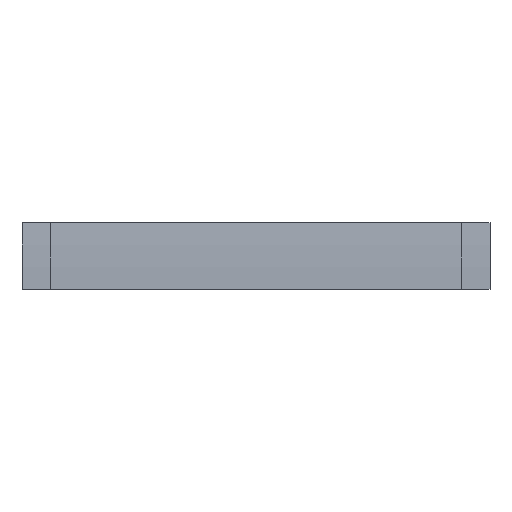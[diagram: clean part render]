
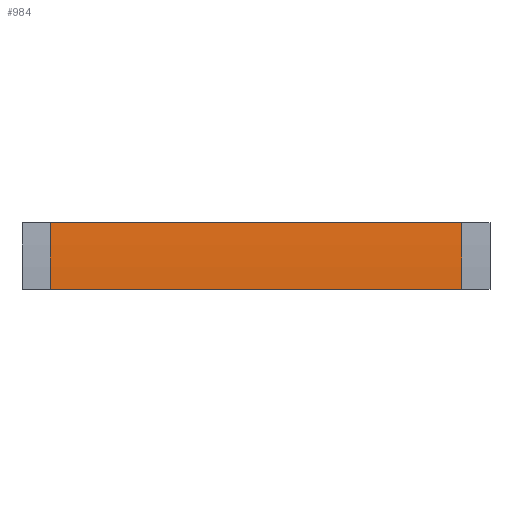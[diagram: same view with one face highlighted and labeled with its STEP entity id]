
A CAD part, front view. The second image highlights one B-rep face of the part: STEP entity #984.
In plain terms, the highlighted cylindrical face has radius 568 mm (diameter 1136 mm), a partial arc.
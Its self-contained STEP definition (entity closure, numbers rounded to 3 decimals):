
#9 = AXIS2_PLACEMENT_3D ( 'NONE', #151, #173, #187 ) ;
#25 = AXIS2_PLACEMENT_3D ( 'NONE', #804, #803, #802 ) ;
#63 = EDGE_CURVE ( 'NONE', #947, #948, #571, .T. ) ;
#105 = EDGE_CURVE ( 'NONE', #948, #871, #502, .T. ) ;
#112 = EDGE_CURVE ( 'NONE', #947, #891, #468, .T. ) ;
#117 = EDGE_CURVE ( 'NONE', #891, #871, #475, .T. ) ;
#145 = CARTESIAN_POINT ( 'NONE',  ( -152., -65.839, 49.504 ) ) ;
#151 = CARTESIAN_POINT ( 'NONE',  ( 152., 500., 0. ) ) ;
#173 = DIRECTION ( 'NONE',  ( 1., 0., 0. ) ) ;
#187 = DIRECTION ( 'NONE',  ( 0., 0., -1. ) ) ;
#206 = DIRECTION ( 'NONE',  ( 1., 0., 0. ) ) ;
#209 = CARTESIAN_POINT ( 'NONE',  ( 0., 500., 0. ) ) ;
#212 = DIRECTION ( 'NONE',  ( 0., 0., -1. ) ) ;
#225 = DIRECTION ( 'NONE',  ( 1., 0., 0. ) ) ;
#232 = CARTESIAN_POINT ( 'NONE',  ( -152., -65.839, 49.504 ) ) ;
#235 = CARTESIAN_POINT ( 'NONE',  ( -152., -68., 0. ) ) ;
#239 = CARTESIAN_POINT ( 'NONE',  ( 152., -65.839, 49.504 ) ) ;
#291 = CARTESIAN_POINT ( 'NONE',  ( 152., -68., 0. ) ) ;
#351 = ORIENTED_EDGE ( 'NONE', *, *, #112, .F. ) ;
#352 = ORIENTED_EDGE ( 'NONE', *, *, #117, .F. ) ;
#355 = ORIENTED_EDGE ( 'NONE', *, *, #105, .T. ) ;
#356 = ORIENTED_EDGE ( 'NONE', *, *, #63, .T. ) ;
#397 = CYLINDRICAL_SURFACE ( 'NONE', #1008, 568. ) ;
#418 = FACE_OUTER_BOUND ( 'NONE', #935, .T. ) ;
#466 = VECTOR ( 'NONE', #225, 1000. ) ;
#468 = LINE ( 'NONE', #145, #466 ) ;
#475 = CIRCLE ( 'NONE', #9, 568. ) ;
#481 = VECTOR ( 'NONE', #723, 1000. ) ;
#502 = LINE ( 'NONE', #827, #481 ) ;
#571 = CIRCLE ( 'NONE', #25, 568. ) ;
#723 = DIRECTION ( 'NONE',  ( 1., 0., 0. ) ) ;
#802 = DIRECTION ( 'NONE',  ( 0., 0., -1. ) ) ;
#803 = DIRECTION ( 'NONE',  ( 1., 0., 0. ) ) ;
#804 = CARTESIAN_POINT ( 'NONE',  ( -152., 500., 0. ) ) ;
#827 = CARTESIAN_POINT ( 'NONE',  ( -152., -68., 0. ) ) ;
#871 = VERTEX_POINT ( 'NONE', #291 ) ;
#891 = VERTEX_POINT ( 'NONE', #239 ) ;
#935 = EDGE_LOOP ( 'NONE', ( #352, #351, #356, #355 ) ) ;
#947 = VERTEX_POINT ( 'NONE', #232 ) ;
#948 = VERTEX_POINT ( 'NONE', #235 ) ;
#984 = ADVANCED_FACE ( 'NONE', ( #418 ), #397, .T. ) ;
#1008 = AXIS2_PLACEMENT_3D ( 'NONE', #209, #206, #212 ) ;
